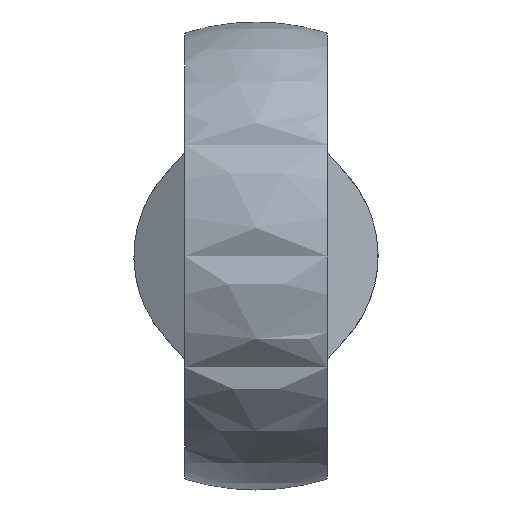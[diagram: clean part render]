
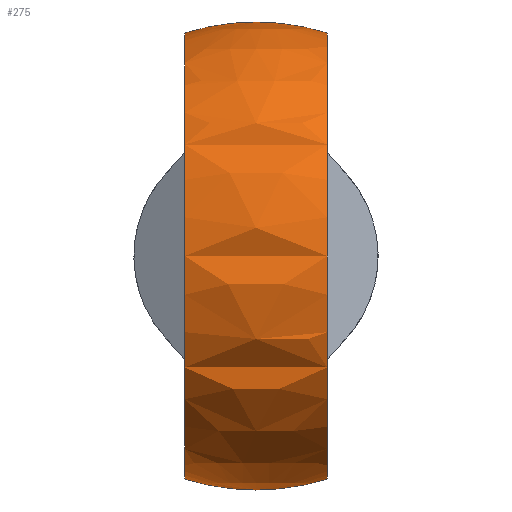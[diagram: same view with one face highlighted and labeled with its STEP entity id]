
A CAD part, left-side view. The second image highlights one B-rep face of the part: STEP entity #275.
In plain terms, the highlighted spherical face has radius 23 mm.
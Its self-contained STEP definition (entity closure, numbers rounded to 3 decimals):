
#275 = ADVANCED_FACE( '', ( #428 ), #429, .T. );
#428 = FACE_OUTER_BOUND( '', #573, .T. );
#429 = SPHERICAL_SURFACE( '', #574, 23. );
#573 = EDGE_LOOP( '', ( #708, #709, #710, #711 ) );
#574 = AXIS2_PLACEMENT_3D( '', #712, #713, #714 );
#708 = ORIENTED_EDGE( '', *, *, #841, .T. );
#709 = ORIENTED_EDGE( '', *, *, #842, .T. );
#710 = ORIENTED_EDGE( '', *, *, #839, .T. );
#711 = ORIENTED_EDGE( '', *, *, #833, .F. );
#712 = CARTESIAN_POINT( '', ( -99.824, 0., 0. ) );
#713 = DIRECTION( '', ( 0., 0., 1. ) );
#714 = DIRECTION( '', ( 1., 0., 0. ) );
#833 = EDGE_CURVE( '', #1068, #1069, #1070, .F. );
#839 = EDGE_CURVE( '', #1078, #1069, #1079, .T. );
#841 = EDGE_CURVE( '', #1068, #1081, #1082, .T. );
#842 = EDGE_CURVE( '', #1081, #1078, #1083, .F. );
#1068 = VERTEX_POINT( '', #1323 );
#1069 = VERTEX_POINT( '', #1324 );
#1070 = CIRCLE( '', #1325, 21.909 );
#1078 = VERTEX_POINT( '', #1336 );
#1079 = CIRCLE( '', #1337, 23. );
#1081 = VERTEX_POINT( '', #1340 );
#1082 = CIRCLE( '', #1341, 23. );
#1083 = CIRCLE( '', #1342, 21.909 );
#1323 = CARTESIAN_POINT( '', ( -99.824, 7., -21.909 ) );
#1324 = CARTESIAN_POINT( '', ( -99.824, 7., 21.909 ) );
#1325 = AXIS2_PLACEMENT_3D( '', #1393, #1394, #1395 );
#1336 = CARTESIAN_POINT( '', ( -99.824, -7., 21.909 ) );
#1337 = AXIS2_PLACEMENT_3D( '', #1405, #1406, #1407 );
#1340 = CARTESIAN_POINT( '', ( -99.824, -7., -21.909 ) );
#1341 = AXIS2_PLACEMENT_3D( '', #1409, #1410, #1411 );
#1342 = AXIS2_PLACEMENT_3D( '', #1412, #1413, #1414 );
#1393 = CARTESIAN_POINT( '', ( -99.824, 7., 0. ) );
#1394 = DIRECTION( '', ( 0., -1., 0. ) );
#1395 = DIRECTION( '', ( 1., 0., 0. ) );
#1405 = CARTESIAN_POINT( '', ( -99.824, 0., 0. ) );
#1406 = DIRECTION( '', ( -1., 0., 0. ) );
#1407 = DIRECTION( '', ( 0., 0., 1. ) );
#1409 = CARTESIAN_POINT( '', ( -99.824, 0., 0. ) );
#1410 = DIRECTION( '', ( -1., 0., 0. ) );
#1411 = DIRECTION( '', ( 0., 0., 1. ) );
#1412 = CARTESIAN_POINT( '', ( -99.824, -7., 0. ) );
#1413 = DIRECTION( '', ( 0., -1., 0. ) );
#1414 = DIRECTION( '', ( 1., 0., 0. ) );
